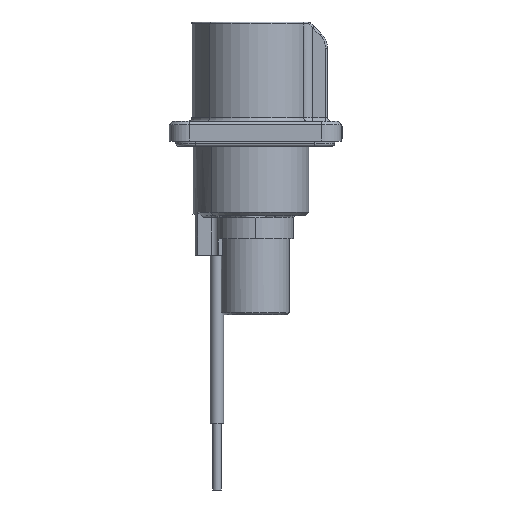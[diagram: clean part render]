
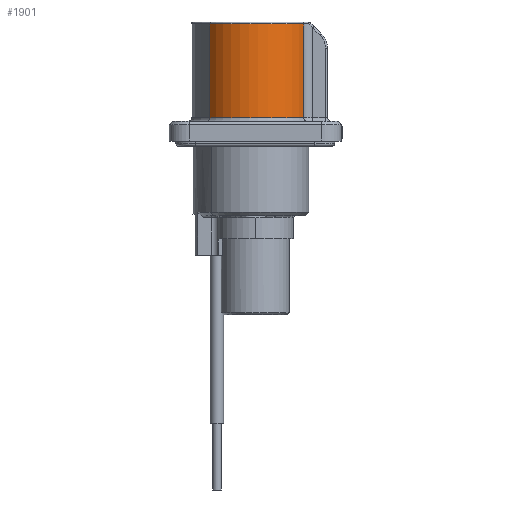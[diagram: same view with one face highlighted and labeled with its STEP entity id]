
A CAD part, left-side view. The second image highlights one B-rep face of the part: STEP entity #1901.
In plain terms, the highlighted cylindrical face has radius 8.3 mm (diameter 16.6 mm), a partial arc.
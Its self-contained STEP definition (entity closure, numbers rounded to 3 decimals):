
#251 = VECTOR ( 'NONE', #7535, 1000. ) ;
#396 = VERTEX_POINT ( 'NONE', #9386 ) ;
#1124 = VECTOR ( 'NONE', #17485, 1000. ) ;
#1502 = DIRECTION ( 'NONE',  ( 0., 0., 1. ) ) ;
#1901 = ADVANCED_FACE ( 'NONE', ( #3154 ), #9781, .T. ) ;
#2334 = AXIS2_PLACEMENT_3D ( 'NONE', #16231, #6479, #17835 ) ;
#3154 = FACE_OUTER_BOUND ( 'NONE', #3936, .T. ) ;
#3347 = AXIS2_PLACEMENT_3D ( 'NONE', #13404, #1502, #18885 ) ;
#3511 = VERTEX_POINT ( 'NONE', #3927 ) ;
#3748 = CARTESIAN_POINT ( 'NONE',  ( -8.396, -7.329, 14.7 ) ) ;
#3927 = CARTESIAN_POINT ( 'NONE',  ( -9.169, 6.862, 14.7 ) ) ;
#3936 = EDGE_LOOP ( 'NONE', ( #15945, #16660, #17447, #17827 ) ) ;
#4551 = DIRECTION ( 'NONE',  ( 0., 0., -1. ) ) ;
#6464 = EDGE_CURVE ( 'NONE', #396, #3511, #17062, .T. ) ;
#6479 = DIRECTION ( 'NONE',  ( 0., 0., 1. ) ) ;
#7535 = DIRECTION ( 'NONE',  ( 0., 0., 1. ) ) ;
#9386 = CARTESIAN_POINT ( 'NONE',  ( -9.169, 6.862, 0.5 ) ) ;
#9781 = CYLINDRICAL_SURFACE ( 'NONE', #3347, 8.3 ) ;
#10812 = VERTEX_POINT ( 'NONE', #16383 ) ;
#10959 = CARTESIAN_POINT ( 'NONE',  ( -8.396, -7.329, -31.286 ) ) ;
#11715 = CIRCLE ( 'NONE', #15057, 8.3 ) ;
#13404 = CARTESIAN_POINT ( 'NONE',  ( -4.5, 0., -31.286 ) ) ;
#14323 = CARTESIAN_POINT ( 'NONE',  ( -4.5, 0., 14.7 ) ) ;
#14533 = EDGE_CURVE ( 'NONE', #16187, #3511, #11715, .T. ) ;
#15057 = AXIS2_PLACEMENT_3D ( 'NONE', #14323, #4551, #15937 ) ;
#15063 = CIRCLE ( 'NONE', #2334, 8.3 ) ;
#15937 = DIRECTION ( 'NONE',  ( 1., 0., 0. ) ) ;
#15945 = ORIENTED_EDGE ( 'NONE', *, *, #6464, .F. ) ;
#16160 = LINE ( 'NONE', #10959, #1124 ) ;
#16187 = VERTEX_POINT ( 'NONE', #3748 ) ;
#16231 = CARTESIAN_POINT ( 'NONE',  ( -4.5, 0., 0.5 ) ) ;
#16383 = CARTESIAN_POINT ( 'NONE',  ( -8.396, -7.329, 0.5 ) ) ;
#16660 = ORIENTED_EDGE ( 'NONE', *, *, #20983, .T. ) ;
#17062 = LINE ( 'NONE', #18912, #251 ) ;
#17447 = ORIENTED_EDGE ( 'NONE', *, *, #19903, .T. ) ;
#17485 = DIRECTION ( 'NONE',  ( 0., 0., 1. ) ) ;
#17827 = ORIENTED_EDGE ( 'NONE', *, *, #14533, .T. ) ;
#17835 = DIRECTION ( 'NONE',  ( 1., 0., 0. ) ) ;
#18885 = DIRECTION ( 'NONE',  ( 1., 0., 0. ) ) ;
#18912 = CARTESIAN_POINT ( 'NONE',  ( -9.169, 6.862, -31.286 ) ) ;
#19903 = EDGE_CURVE ( 'NONE', #10812, #16187, #16160, .T. ) ;
#20983 = EDGE_CURVE ( 'NONE', #396, #10812, #15063, .T. ) ;
